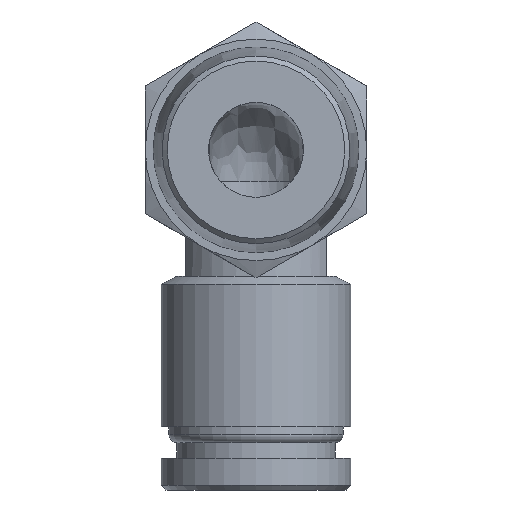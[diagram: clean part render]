
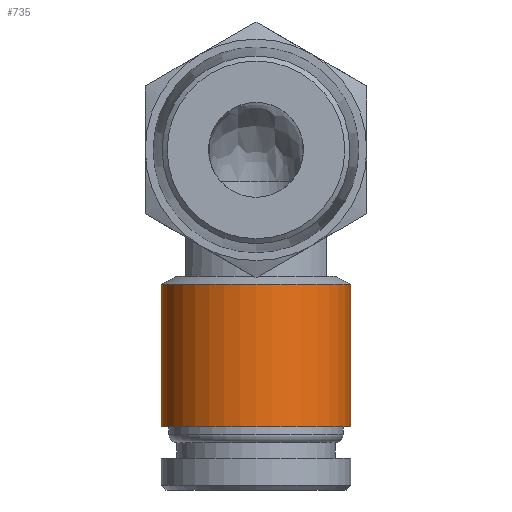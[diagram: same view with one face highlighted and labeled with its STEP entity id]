
A CAD part, front view. The second image highlights one B-rep face of the part: STEP entity #735.
In plain terms, the highlighted cylindrical face has radius 6 mm (diameter 12 mm), a full revolution.
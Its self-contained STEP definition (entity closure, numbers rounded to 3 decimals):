
#25=CYLINDRICAL_SURFACE('',#849,6.);
#120=FACE_OUTER_BOUND('',#177,.T.);
#177=EDGE_LOOP('',(#626,#627,#628,#629));
#207=LINE('',#1326,#237);
#237=VECTOR('',#1051,6.);
#286=CIRCLE('',#842,6.);
#289=CIRCLE('',#848,6.);
#350=VERTEX_POINT('',#1313);
#352=VERTEX_POINT('',#1323);
#443=EDGE_CURVE('',#350,#350,#286,.T.);
#447=EDGE_CURVE('',#352,#352,#289,.T.);
#448=EDGE_CURVE('',#350,#352,#207,.T.);
#626=ORIENTED_EDGE('',*,*,#443,.F.);
#627=ORIENTED_EDGE('',*,*,#448,.T.);
#628=ORIENTED_EDGE('',*,*,#447,.T.);
#629=ORIENTED_EDGE('',*,*,#448,.F.);
#735=ADVANCED_FACE('',(#120),#25,.T.);
#842=AXIS2_PLACEMENT_3D('',#1315,#1034,#1035);
#848=AXIS2_PLACEMENT_3D('',#1324,#1047,#1048);
#849=AXIS2_PLACEMENT_3D('',#1325,#1049,#1050);
#1034=DIRECTION('center_axis',(0.,0.,1.));
#1035=DIRECTION('ref_axis',(1.,0.,0.));
#1047=DIRECTION('center_axis',(0.,0.,1.));
#1048=DIRECTION('ref_axis',(1.,0.,0.));
#1049=DIRECTION('center_axis',(0.,0.,1.));
#1050=DIRECTION('ref_axis',(0.,-1.,0.));
#1051=DIRECTION('',(0.,0.,-1.));
#1313=CARTESIAN_POINT('',(0.,16.4,-8.5));
#1315=CARTESIAN_POINT('Origin',(0.,10.4,-8.5));
#1323=CARTESIAN_POINT('',(0.,16.4,-17.5));
#1324=CARTESIAN_POINT('Origin',(0.,10.4,-17.5));
#1325=CARTESIAN_POINT('Origin',(0.,10.4,-13.));
#1326=CARTESIAN_POINT('',(0.,16.4,-13.));
